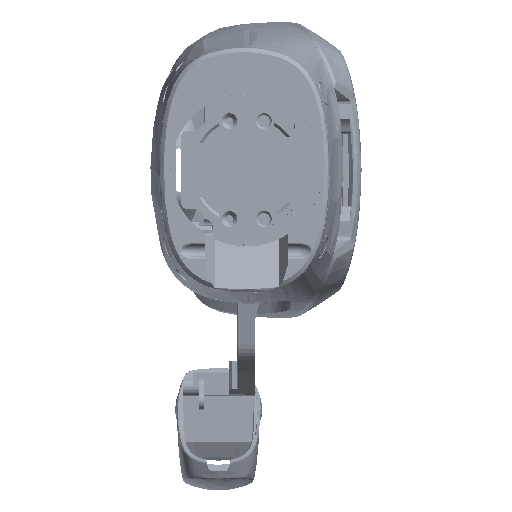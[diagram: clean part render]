
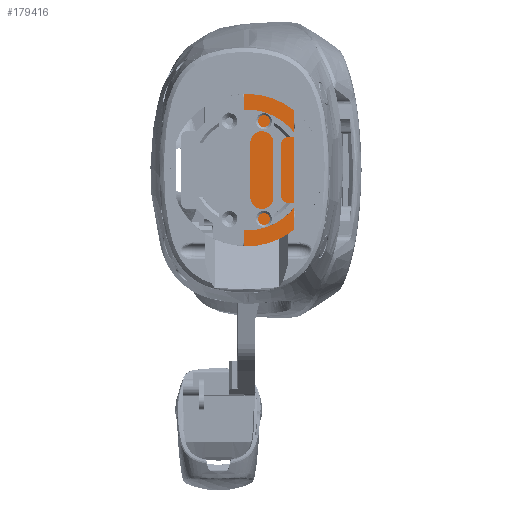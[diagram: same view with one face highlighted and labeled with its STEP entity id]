
A CAD part, front view. The second image highlights one B-rep face of the part: STEP entity #179416.
In plain terms, the highlighted planar face has unit normal (0, -1, 0).
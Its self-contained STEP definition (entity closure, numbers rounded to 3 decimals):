
#154333=DIRECTION('',(0.,0.,1.));
#154334=VECTOR('',#154333,17.5);
#154335=CARTESIAN_POINT('',(79.539,-73.338,
-43.546));
#154336=LINE('',#154335,#154334);
#158570=DIRECTION('',(-1.,0.,0.));
#158571=VECTOR('',#158570,71.292);
#158572=CARTESIAN_POINT('',(79.539,-73.338,
-26.046));
#158573=LINE('',#158572,#158571);
#158768=DIRECTION('',(-1.,0.,0.));
#158769=VECTOR('',#158768,71.292);
#158770=CARTESIAN_POINT('',(79.539,-73.338,
-43.546));
#158771=LINE('',#158770,#158769);
#158772=DIRECTION('',(0.,0.,1.));
#158773=VECTOR('',#158772,17.5);
#158774=CARTESIAN_POINT('',(8.247,-73.338,
-43.546));
#158775=LINE('',#158774,#158773);
#164242=CARTESIAN_POINT('',(79.539,-73.338,
-43.546));
#164244=VERTEX_POINT('',#164242);
#164245=CARTESIAN_POINT('',(79.539,-73.338,
-26.046));
#164246=VERTEX_POINT('',#164245);
#164266=CARTESIAN_POINT('',(8.247,-73.338,
-43.546));
#164267=VERTEX_POINT('',#164266);
#164883=CARTESIAN_POINT('',(8.247,-73.338,
-26.046));
#164884=VERTEX_POINT('',#164883);
#179405=CARTESIAN_POINT('',(79.539,-73.338,
-43.546));
#179406=DIRECTION('',(0.,1.,0.));
#179407=DIRECTION('',(-1.,0.,0.));
#179408=AXIS2_PLACEMENT_3D('',#179405,#179406,#179407);
#179409=PLANE('',#179408);
#179410=ORIENTED_EDGE('',*,*,#166983,.T.);
#179411=ORIENTED_EDGE('',*,*,#179399,.T.);
#179412=ORIENTED_EDGE('',*,*,#179295,.F.);
#179413=ORIENTED_EDGE('',*,*,#166944,.F.);
#179414=EDGE_LOOP('',(#179410,#179411,#179412,#179413));
#179415=FACE_OUTER_BOUND('',#179414,.F.);
#166944=EDGE_CURVE('',#164244,#164246,#154336,.T.);
#166983=EDGE_CURVE('',#164244,#164267,#158771,.T.);
#179295=EDGE_CURVE('',#164246,#164884,#158573,.T.);
#179399=EDGE_CURVE('',#164267,#164884,#158775,.T.);
#179416=ADVANCED_FACE('',(#179415),#179409,.F.);
